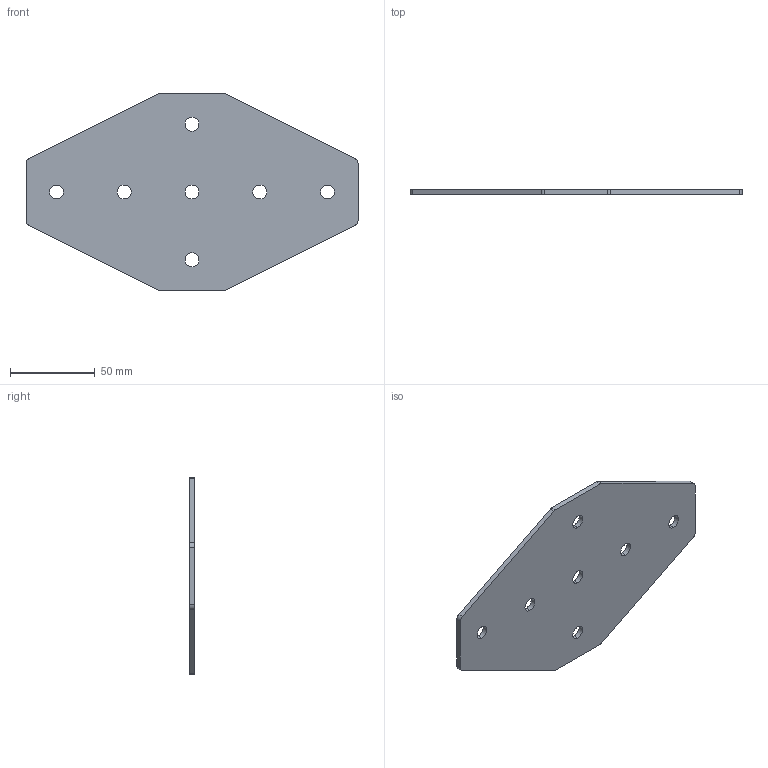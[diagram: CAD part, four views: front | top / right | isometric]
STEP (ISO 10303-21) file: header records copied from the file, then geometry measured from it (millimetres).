
FILE_DESCRIPTION (( 'STEP AP203' ), '1' );
FILE_NAME ('ﾕ-7-ﾓ-40.STEP', '2016-07-23T09:48:45', ( '' ), ( '' ), 'SwSTEP 2.0', 'SolidWorks 2014', '' );
FILE_SCHEMA (( 'CONFIG_CONTROL_DESIGN' ));
Length unit declared in the file: millimetre
Products named in the file (1): ﾕ-7-ﾓ-40
Bounding box: 196 x 3 x 116 mm (x, y, z)
Surface area: 34460.3 mm2 (no closed solid volume)
Topology: 0 solids, 1 shells, 32 faces, 90 edges, 60 vertices
Faces by surface type: cylinder 22, plane 10
Entity records: 1163 total; most frequent: DIRECTION 200, CARTESIAN_POINT 183, ORIENTED_EDGE 180, EDGE_CURVE 90, AXIS2_PLACEMENT_3D 77, VERTEX_POINT 60, LINE 46, EDGE_LOOP 46
